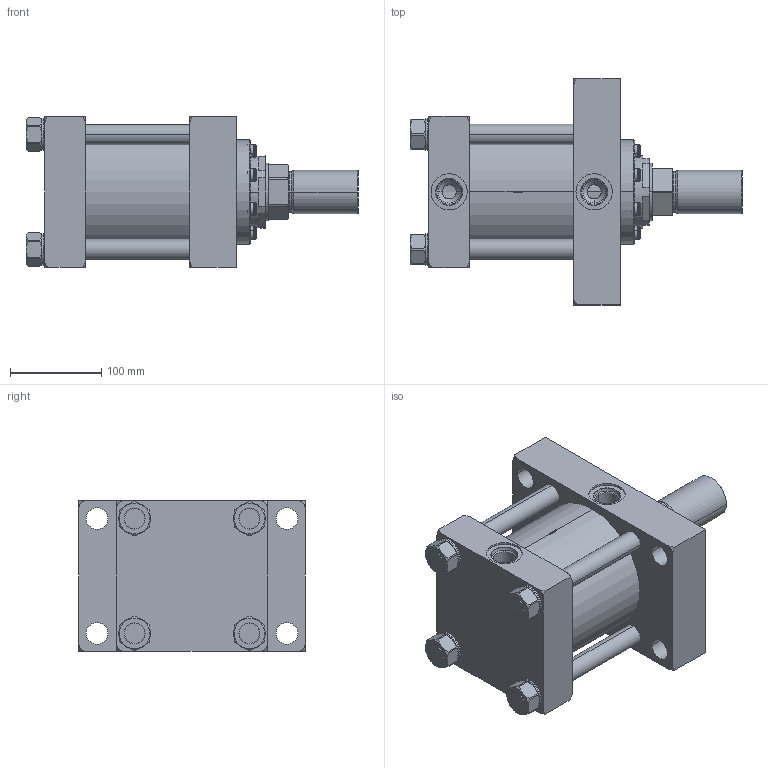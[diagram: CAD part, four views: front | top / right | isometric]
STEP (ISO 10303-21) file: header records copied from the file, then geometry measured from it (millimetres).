
FILE_DESCRIPTION (( 'STEP AP214' ), '1' );
FILE_NAME ('5.00JJ2HHNAT134A2.000.step', '2026-03-26T21:18:57', ( '' ), ( '' ), 'SwSTEP 2.0', 'SolidWorks 2023', '' );
FILE_SCHEMA (( 'AUTOMOTIVE_DESIGN' ));
Length unit declared in the file: inch
Products named in the file (1): 5.00JJ2HHNAT134A2.000
Bounding box: 363.54 x 247.65 x 165.1 mm (x, y, z)
Volume: 5124620.4 mm3; surface area: 637835.6 mm2
Topology: 40 solids, 40 shells, 1838 faces, 4869 edges, 3122 vertices
Faces by surface type: plane 818, cylinder 753, cone 229, bspline 30, torus 8
Entity records: 84685 total; most frequent: CARTESIAN_POINT 15738, ORIENTED_EDGE 9658, DIRECTION 9095, EDGE_CURVE 4829, AXIS2_PLACEMENT_3D 3521, VERTEX_POINT 3122, LINE 2053, VECTOR 2053
